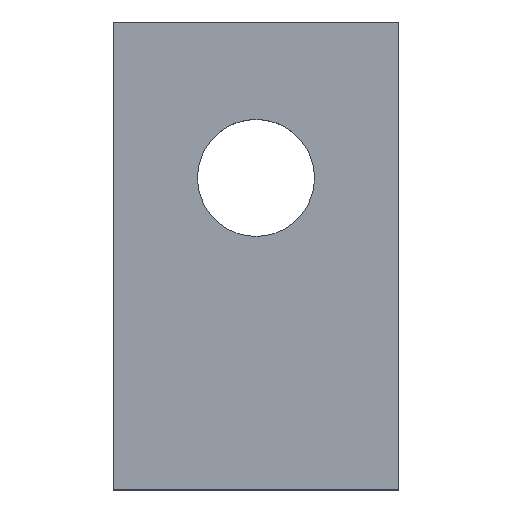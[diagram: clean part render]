
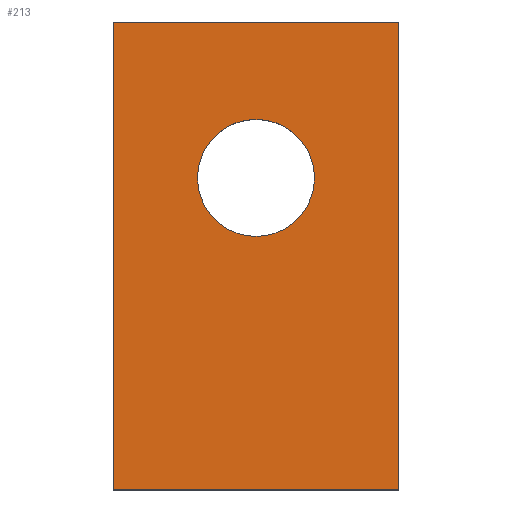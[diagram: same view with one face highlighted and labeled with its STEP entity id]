
A CAD part, top view. The second image highlights one B-rep face of the part: STEP entity #213.
In plain terms, the highlighted planar face has unit normal (0, 0, 1).
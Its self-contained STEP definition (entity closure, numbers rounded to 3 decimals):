
#24 = VERTEX_POINT('',#25);
#25 = CARTESIAN_POINT('',(-10.2,-34.6,9.3));
#32 = PLANE('',#33);
#33 = AXIS2_PLACEMENT_3D('',#34,#35,#36);
#34 = CARTESIAN_POINT('',(-10.2,-34.6,7.7));
#35 = DIRECTION('',(1.,0.,0.));
#36 = DIRECTION('',(0.,0.,1.));
#44 = PLANE('',#45);
#45 = AXIS2_PLACEMENT_3D('',#46,#47,#48);
#46 = CARTESIAN_POINT('',(-10.2,-34.6,7.7));
#47 = DIRECTION('',(0.,1.,0.));
#48 = DIRECTION('',(0.,-0.,1.));
#85 = VERTEX_POINT('',#86);
#86 = CARTESIAN_POINT('',(-10.2,-27.4,9.3));
#100 = PLANE('',#101);
#101 = AXIS2_PLACEMENT_3D('',#102,#103,#104);
#102 = CARTESIAN_POINT('',(-10.2,-27.4,7.7));
#103 = DIRECTION('',(0.,1.,0.));
#104 = DIRECTION('',(0.,-0.,1.));
#112 = EDGE_CURVE('',#24,#85,#113,.T.);
#113 = SURFACE_CURVE('',#114,(#118,#125),.PCURVE_S1.);
#114 = LINE('',#115,#116);
#115 = CARTESIAN_POINT('',(-10.2,-34.6,9.3));
#116 = VECTOR('',#117,1.);
#117 = DIRECTION('',(0.,1.,0.));
#118 = PCURVE('',#32,#119);
#119 = DEFINITIONAL_REPRESENTATION('',(#120),#124);
#120 = LINE('',#121,#122);
#121 = CARTESIAN_POINT('',(1.6,0.));
#122 = VECTOR('',#123,1.);
#123 = DIRECTION('',(0.,-1.));
#124 = ( GEOMETRIC_REPRESENTATION_CONTEXT(2) 
PARAMETRIC_REPRESENTATION_CONTEXT() REPRESENTATION_CONTEXT('2D SPACE',''
  ) );
#125 = PCURVE('',#126,#131);
#126 = PLANE('',#127);
#127 = AXIS2_PLACEMENT_3D('',#128,#129,#130);
#128 = CARTESIAN_POINT('',(-10.2,-34.6,9.3));
#129 = DIRECTION('',(0.,0.,1.));
#130 = DIRECTION('',(1.,0.,-0.));
#131 = DEFINITIONAL_REPRESENTATION('',(#132),#136);
#132 = LINE('',#133,#134);
#133 = CARTESIAN_POINT('',(0.,0.));
#134 = VECTOR('',#135,1.);
#135 = DIRECTION('',(0.,1.));
#136 = ( GEOMETRIC_REPRESENTATION_CONTEXT(2) 
PARAMETRIC_REPRESENTATION_CONTEXT() REPRESENTATION_CONTEXT('2D SPACE',''
  ) );
#165 = EDGE_CURVE('',#24,#166,#168,.T.);
#166 = VERTEX_POINT('',#167);
#167 = CARTESIAN_POINT('',(-5.8,-34.6,9.3));
#168 = SURFACE_CURVE('',#169,(#173,#180),.PCURVE_S1.);
#169 = LINE('',#170,#171);
#170 = CARTESIAN_POINT('',(-10.2,-34.6,9.3));
#171 = VECTOR('',#172,1.);
#172 = DIRECTION('',(1.,0.,0.));
#173 = PCURVE('',#44,#174);
#174 = DEFINITIONAL_REPRESENTATION('',(#175),#179);
#175 = LINE('',#176,#177);
#176 = CARTESIAN_POINT('',(1.6,0.));
#177 = VECTOR('',#178,1.);
#178 = DIRECTION('',(0.,1.));
#179 = ( GEOMETRIC_REPRESENTATION_CONTEXT(2) 
PARAMETRIC_REPRESENTATION_CONTEXT() REPRESENTATION_CONTEXT('2D SPACE',''
  ) );
#180 = PCURVE('',#126,#181);
#181 = DEFINITIONAL_REPRESENTATION('',(#182),#186);
#182 = LINE('',#183,#184);
#183 = CARTESIAN_POINT('',(0.,0.));
#184 = VECTOR('',#185,1.);
#185 = DIRECTION('',(1.,0.));
#186 = ( GEOMETRIC_REPRESENTATION_CONTEXT(2) 
PARAMETRIC_REPRESENTATION_CONTEXT() REPRESENTATION_CONTEXT('2D SPACE',''
  ) );
#202 = PLANE('',#203);
#203 = AXIS2_PLACEMENT_3D('',#204,#205,#206);
#204 = CARTESIAN_POINT('',(-5.8,-34.6,7.7));
#205 = DIRECTION('',(1.,0.,0.));
#206 = DIRECTION('',(0.,0.,1.));
#213 = ADVANCED_FACE('',(#214,#262),#126,.T.);
#214 = FACE_BOUND('',#215,.T.);
#215 = EDGE_LOOP('',(#216,#217,#218,#241));
#216 = ORIENTED_EDGE('',*,*,#112,.F.);
#217 = ORIENTED_EDGE('',*,*,#165,.T.);
#218 = ORIENTED_EDGE('',*,*,#219,.T.);
#219 = EDGE_CURVE('',#166,#220,#222,.T.);
#220 = VERTEX_POINT('',#221);
#221 = CARTESIAN_POINT('',(-5.8,-27.4,9.3));
#222 = SURFACE_CURVE('',#223,(#227,#234),.PCURVE_S1.);
#223 = LINE('',#224,#225);
#224 = CARTESIAN_POINT('',(-5.8,-34.6,9.3));
#225 = VECTOR('',#226,1.);
#226 = DIRECTION('',(0.,1.,0.));
#227 = PCURVE('',#126,#228);
#228 = DEFINITIONAL_REPRESENTATION('',(#229),#233);
#229 = LINE('',#230,#231);
#230 = CARTESIAN_POINT('',(4.4,0.));
#231 = VECTOR('',#232,1.);
#232 = DIRECTION('',(0.,1.));
#233 = ( GEOMETRIC_REPRESENTATION_CONTEXT(2) 
PARAMETRIC_REPRESENTATION_CONTEXT() REPRESENTATION_CONTEXT('2D SPACE',''
  ) );
#234 = PCURVE('',#202,#235);
#235 = DEFINITIONAL_REPRESENTATION('',(#236),#240);
#236 = LINE('',#237,#238);
#237 = CARTESIAN_POINT('',(1.6,0.));
#238 = VECTOR('',#239,1.);
#239 = DIRECTION('',(0.,-1.));
#240 = ( GEOMETRIC_REPRESENTATION_CONTEXT(2) 
PARAMETRIC_REPRESENTATION_CONTEXT() REPRESENTATION_CONTEXT('2D SPACE',''
  ) );
#241 = ORIENTED_EDGE('',*,*,#242,.F.);
#242 = EDGE_CURVE('',#85,#220,#243,.T.);
#243 = SURFACE_CURVE('',#244,(#248,#255),.PCURVE_S1.);
#244 = LINE('',#245,#246);
#245 = CARTESIAN_POINT('',(-10.2,-27.4,9.3));
#246 = VECTOR('',#247,1.);
#247 = DIRECTION('',(1.,0.,0.));
#248 = PCURVE('',#126,#249);
#249 = DEFINITIONAL_REPRESENTATION('',(#250),#254);
#250 = LINE('',#251,#252);
#251 = CARTESIAN_POINT('',(0.,7.2));
#252 = VECTOR('',#253,1.);
#253 = DIRECTION('',(1.,0.));
#254 = ( GEOMETRIC_REPRESENTATION_CONTEXT(2) 
PARAMETRIC_REPRESENTATION_CONTEXT() REPRESENTATION_CONTEXT('2D SPACE',''
  ) );
#255 = PCURVE('',#100,#256);
#256 = DEFINITIONAL_REPRESENTATION('',(#257),#261);
#257 = LINE('',#258,#259);
#258 = CARTESIAN_POINT('',(1.6,0.));
#259 = VECTOR('',#260,1.);
#260 = DIRECTION('',(0.,1.));
#261 = ( GEOMETRIC_REPRESENTATION_CONTEXT(2) 
PARAMETRIC_REPRESENTATION_CONTEXT() REPRESENTATION_CONTEXT('2D SPACE',''
  ) );
#262 = FACE_BOUND('',#263,.T.);
#263 = EDGE_LOOP('',(#264));
#264 = ORIENTED_EDGE('',*,*,#265,.T.);
#265 = EDGE_CURVE('',#266,#266,#268,.T.);
#266 = VERTEX_POINT('',#267);
#267 = CARTESIAN_POINT('',(-7.1,-29.8,9.3));
#268 = SURFACE_CURVE('',#269,(#274,#285),.PCURVE_S1.);
#269 = CIRCLE('',#270,0.9);
#270 = AXIS2_PLACEMENT_3D('',#271,#272,#273);
#271 = CARTESIAN_POINT('',(-8.,-29.8,9.3));
#272 = DIRECTION('',(0.,0.,-1.));
#273 = DIRECTION('',(1.,0.,0.));
#274 = PCURVE('',#126,#275);
#275 = DEFINITIONAL_REPRESENTATION('',(#276),#284);
#276 = ( BOUNDED_CURVE() B_SPLINE_CURVE(2,(#277,#278,#279,#280,#281,#282
,#283),.UNSPECIFIED.,.T.,.F.) B_SPLINE_CURVE_WITH_KNOTS((1,2,2,2,2,1),(
    -2.094,0.,2.094,4.189,6.283,
8.378),.UNSPECIFIED.) CURVE() GEOMETRIC_REPRESENTATION_ITEM() 
RATIONAL_B_SPLINE_CURVE((1.,0.5,1.,0.5,1.,0.5,1.)) REPRESENTATION_ITEM(
  '') );
#277 = CARTESIAN_POINT('',(3.1,4.8));
#278 = CARTESIAN_POINT('',(3.1,3.241));
#279 = CARTESIAN_POINT('',(1.75,4.021));
#280 = CARTESIAN_POINT('',(0.4,4.8));
#281 = CARTESIAN_POINT('',(1.75,5.579));
#282 = CARTESIAN_POINT('',(3.1,6.359));
#283 = CARTESIAN_POINT('',(3.1,4.8));
#284 = ( GEOMETRIC_REPRESENTATION_CONTEXT(2) 
PARAMETRIC_REPRESENTATION_CONTEXT() REPRESENTATION_CONTEXT('2D SPACE',''
  ) );
#285 = PCURVE('',#286,#291);
#286 = CYLINDRICAL_SURFACE('',#287,0.9);
#287 = AXIS2_PLACEMENT_3D('',#288,#289,#290);
#288 = CARTESIAN_POINT('',(-8.,-29.8,7.6));
#289 = DIRECTION('',(-0.,-0.,-1.));
#290 = DIRECTION('',(1.,0.,0.));
#291 = DEFINITIONAL_REPRESENTATION('',(#292),#296);
#292 = LINE('',#293,#294);
#293 = CARTESIAN_POINT('',(0.,-1.7));
#294 = VECTOR('',#295,1.);
#295 = DIRECTION('',(1.,-0.));
#296 = ( GEOMETRIC_REPRESENTATION_CONTEXT(2) 
PARAMETRIC_REPRESENTATION_CONTEXT() REPRESENTATION_CONTEXT('2D SPACE',''
  ) );
